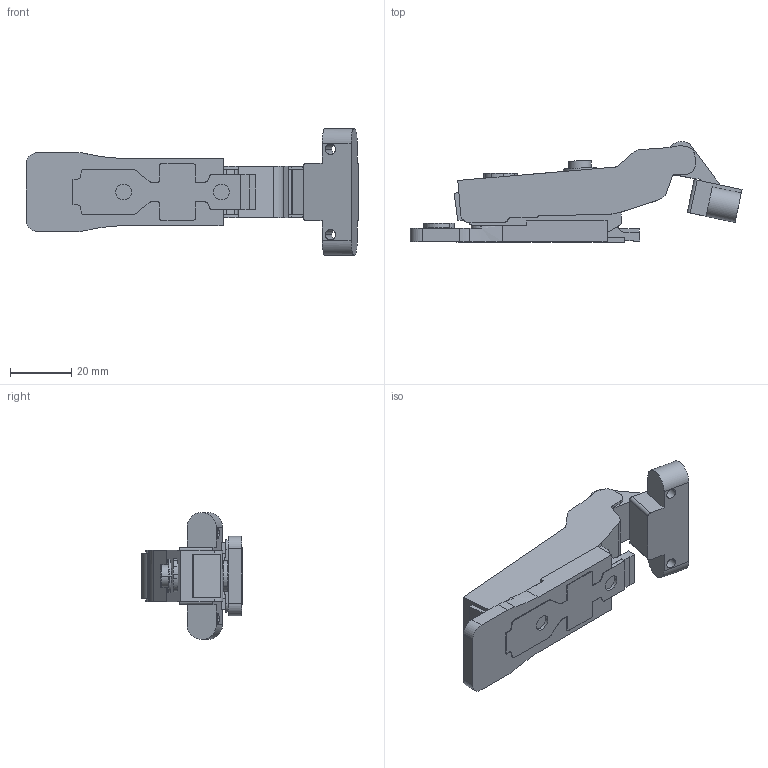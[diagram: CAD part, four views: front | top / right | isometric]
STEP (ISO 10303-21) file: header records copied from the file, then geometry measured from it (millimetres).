
FILE_DESCRIPTION (( 'STEP AP203' ), '1' );
FILE_NAME ('C80B678F+80H20YQ-DTC 3D open.STEP', '2023-10-07T06:39:34', ( 'Windows 蚚誧' ), ( '' ), 'SwSTEP 2.0', 'SolidWorks 2018', '' );
FILE_SCHEMA (( 'CONFIG_CONTROL_DESIGN' ));
Length unit declared in the file: millimetre
Products named in the file (1): C80B678F+80H20YQ-DTC 3D  open
Bounding box: 108.74 x 33 x 41.59 mm (x, y, z)
Surface area: 11346.1 mm2 (no closed solid volume)
Topology: 0 solids, 2 shells, 208 faces, 603 edges, 404 vertices
Faces by surface type: plane 114, cylinder 86, bspline 6, torus 2
Entity records: 7967 total; most frequent: CARTESIAN_POINT 2948, ORIENTED_EDGE 1202, DIRECTION 783, EDGE_CURVE 603, VERTEX_POINT 404, B_SPLINE_CURVE_WITH_KNOTS 308, AXIS2_PLACEMENT_3D 289, EDGE_LOOP 219
